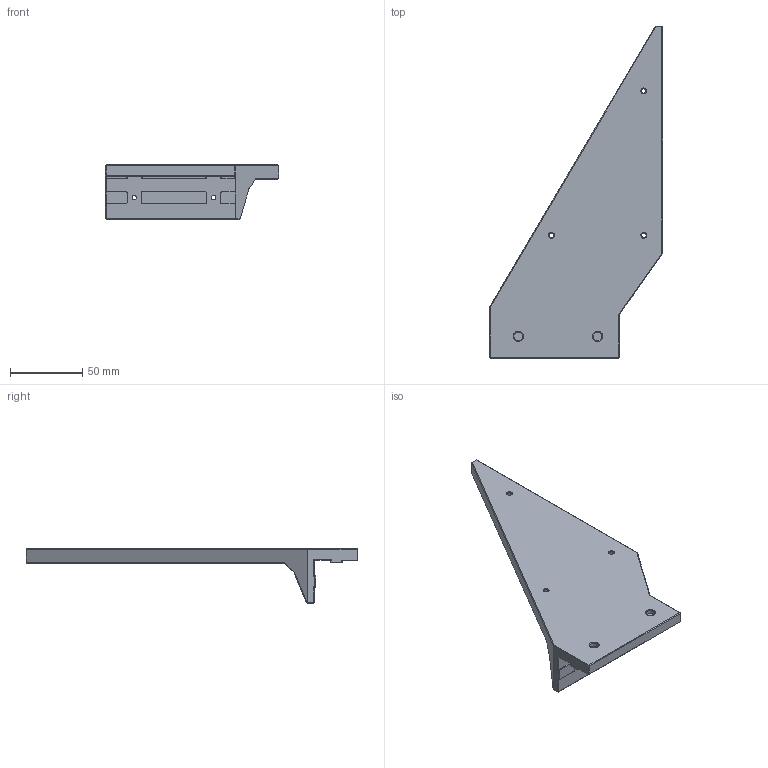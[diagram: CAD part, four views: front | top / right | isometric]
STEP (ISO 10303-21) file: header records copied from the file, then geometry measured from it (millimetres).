
FILE_DESCRIPTION( ( '' ), ' ' );
FILE_NAME( '/vol/tmp/translate-1225396909167880567/5e0a3b07f838ca159b75614c.step', '2019-12-30T17:59:36', ( '' ), ( '' ), ' ', ' ', ' ' );
FILE_SCHEMA( ( 'AUTOMOTIVE_DESIGN { 1 0 10303 214 1 1 1 1 }' ) );
Length unit declared in the file: metre
Products named in the file (1): Part 2
Bounding box: 120 x 230 x 37.87 mm (x, y, z)
Volume: 118692.9 mm3; surface area: 47310.6 mm2
Topology: 1 solids, 1 shells, 256 faces, 654 edges, 409 vertices
Faces by surface type: plane 178, cylinder 43, bspline 23, cone 12
Full cylindrical faces by diameter (mm): 3.1 x9, 6 x2
Entity records: 9672 total; most frequent: CARTESIAN_POINT 1654, ORIENTED_EDGE 1252, DIRECTION 1145, EDGE_CURVE 626, LINE 463, VECTOR 463, VERTEX_POINT 397, AXIS2_PLACEMENT_3D 341
